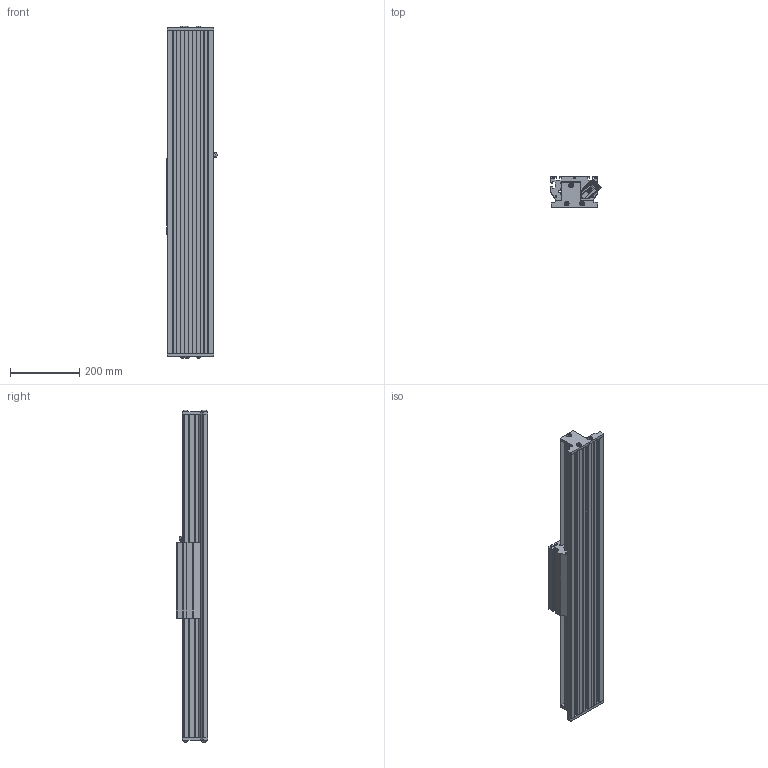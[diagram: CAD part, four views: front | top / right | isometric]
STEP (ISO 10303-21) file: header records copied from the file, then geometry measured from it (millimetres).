
FILE_DESCRIPTION (( 'STEP AP214' ), '1' );
FILE_NAME ('SINADRIVES Linear motor stage MLL20200XS-XX-1-0-ST-00-00948.STEP', '2015-07-06T09:02:46', ( 'Tecnico' ), ( '' ), 'SwSTEP 2.0', 'SolidWorks 2009', '' );
FILE_SCHEMA (( 'AUTOMOTIVE_DESIGN' ));
Length unit declared in the file: millimetre
Products named in the file (7): SINADRIVES PROFILE MLL2XXXX-0932; SINADRIVES CARRIAGE MLL20200XS-1; CARRIAGE MLL20200; Connector power+signal Y-tec 45; SINADRIVES ENDBLOCK MLL2; SINADRIVES ENDBLOCK MLL2-2; SINADRIVES Linear motor stage MLL20200XS-XX-1-0-ST-00-00948
Assembly tree (6 placements, depth 3):
  SINADRIVES Linear motor stage MLL20200XS-XX-1-0-ST-00-00948
    SINADRIVES ENDBLOCK MLL2
    SINADRIVES PROFILE MLL2XXXX-0932
    SINADRIVES CARRIAGE MLL20200XS-1
      CARRIAGE MLL20200
      Connector power+signal Y-tec 45
    SINADRIVES ENDBLOCK MLL2-2
Bounding box: 144.43 x 91 x 956.8 mm (x, y, z)
Volume: 4959897.3 mm3; surface area: 874655 mm2
Topology: 2 solids, 42 shells, 950 faces, 2640 edges, 1730 vertices
Faces by surface type: plane 445, cylinder 302, bspline 79, cone 70, torus 42, sphere 12
Entity records: 40587 total; most frequent: CARTESIAN_POINT 8656, ORIENTED_EDGE 5024, DIRECTION 4947, EDGE_CURVE 2622, AXIS2_PLACEMENT_3D 1781, VERTEX_POINT 1730, LINE 1385, VECTOR 1385
